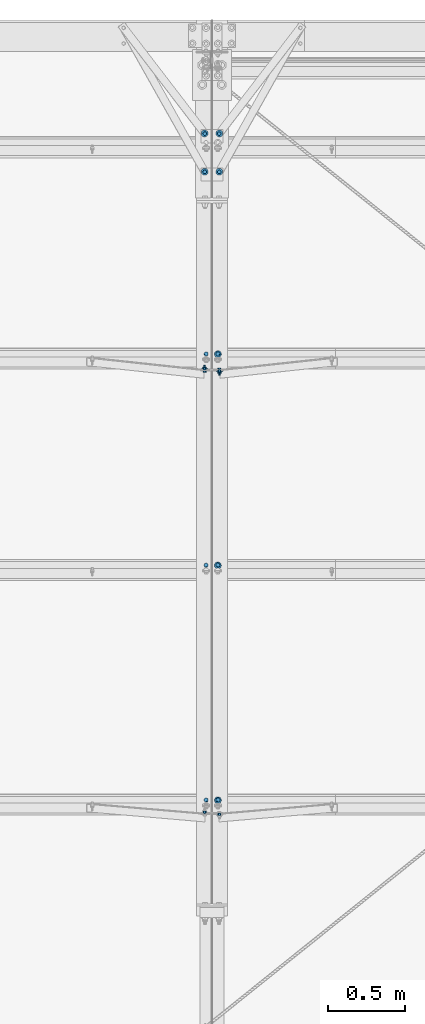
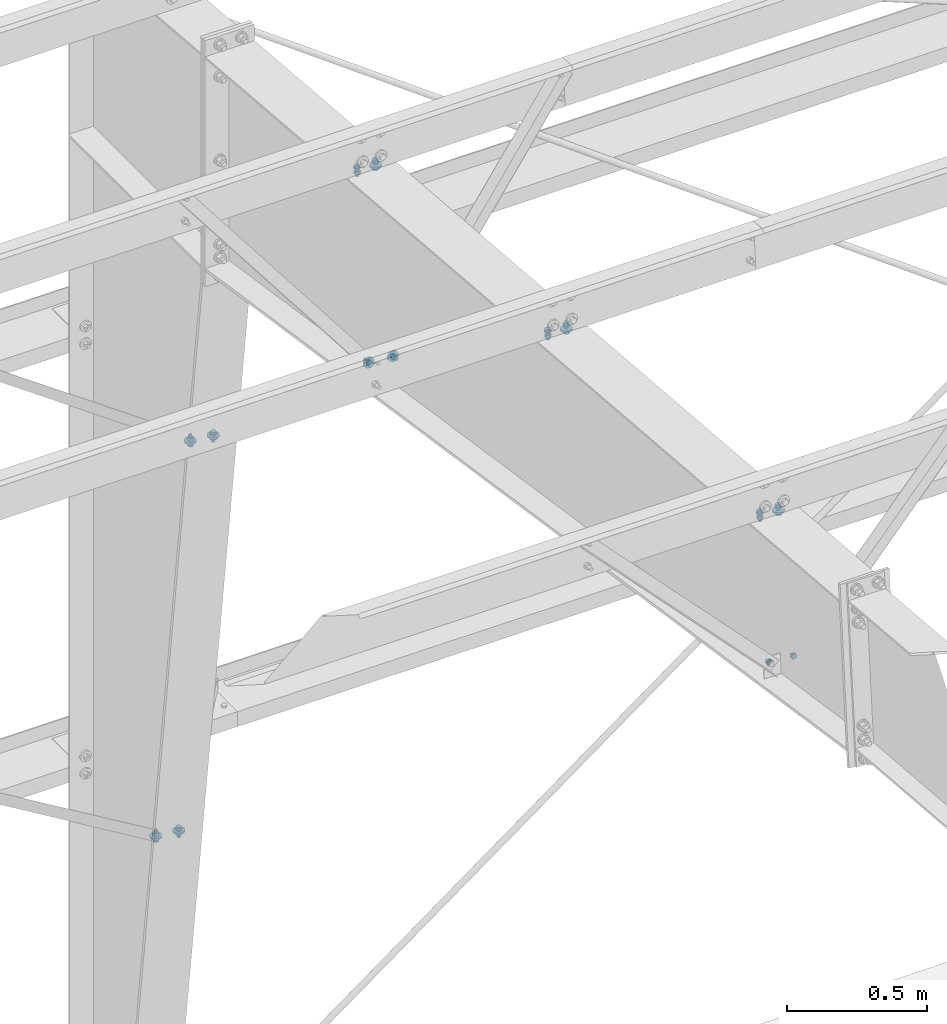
# One storey, part 163 of 185: 20 mechanical fasteners, 11 elements without a shape of their own.
"""IFC2X3 building model written with IfcOpenShell, lengths in millimetres."""

from ifc_helpers import new_model, si_unit, frame, origin_with_axes, origin_2d_with_axis, place, context, subcontext, project, spatial, polyline, circle, outline, extrude, source, transform, mapped, material, type_object, element, aggregate, save


model = new_model("IFC2X3")

# Units and contexts
model_context = context("Model", 3, precision=1e-05, world=origin_with_axes())
body_context = subcontext(model_context, "Body", "Model", "MODEL_VIEW")
ifc_project = project(units=[si_unit("LENGTHUNIT", "METRE", prefix="MILLI"), si_unit("AREAUNIT", "SQUARE_METRE"), si_unit("VOLUMEUNIT", "CUBIC_METRE"), si_unit("MASSUNIT", "GRAM", prefix="KILO"), si_unit("TIMEUNIT", "SECOND"), si_unit("PLANEANGLEUNIT", "RADIAN"), si_unit("SOLIDANGLEUNIT", "STERADIAN"), si_unit("THERMODYNAMICTEMPERATUREUNIT", "DEGREE_CELSIUS"), si_unit("LUMINOUSINTENSITYUNIT", "LUMEN")], contexts=[model_context])

# Site, building, storey
site_placement = place(None, origin_with_axes())
site = spatial("IfcSite", under=ifc_project, at=site_placement, Name="Undefined", CompositionType="ELEMENT")
building_placement = place(site_placement, origin_with_axes())
building = spatial("IfcBuilding", under=site, at=building_placement, Name="Undefined", CompositionType="ELEMENT")
storey_placement = place(building_placement, origin_with_axes())
storey = spatial("IfcBuildingStorey", under=building, at=storey_placement, Name="Undefined", CompositionType="ELEMENT", Elevation=0.0)

# Assembly, mechanical fastener
assembly_1_placement = place(storey_placement, origin_with_axes())
assembly_1 = element("IfcElementAssembly", 1, at=assembly_1_placement, inside=storey, Name="Steel Assembly", AssemblyPlace="NOTDEFINED", PredefinedType="RIGID_FRAME")
ifc_material_1 = material(Name="Undefined")
discrete_accessory_type = type_object("IfcDiscreteAccessoryType", Name="Bolt assembly")
shared_shape_1 = source(origin_with_axes(), body_context, "Body", "SweptSolid", [
    extrude(circle(Radius=7.14374971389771, at=origin_2d_with_axis()), frame((0.0, -1.59000001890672, 0.0), z_axis=(0.0, 1.0, 0.0), x_axis=(1.0, 0.0, 0.0)), (0.0, 0.0, 1.0), 1.7),
    extrude(outline(polyline([(10.9985221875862, 0.0), (5.4992610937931, 9.52499961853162), (-5.4992610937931, 9.52499961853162), (-10.9985221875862, 0.0), (-5.4992610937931, -9.52499961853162), (5.4992610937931, -9.52499961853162), (10.9985221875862, 0.0)])), frame((0.0, -15.0837496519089, 0.0), z_axis=(0.0, 1.0, 0.0), x_axis=(1.0, 0.0, 0.0)), (0.0, 0.0, 1.0), 9.5),
    extrude(circle(Radius=6.34999990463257, at=origin_2d_with_axis()), frame((0.0, -5.5587500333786, 0.0), z_axis=(0.0, 1.0, 0.0), x_axis=(1.0, 0.0, 0.0)), (0.0, 0.0, 1.0), 38.1),
    extrude(circle(Radius=13.4937496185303, at=origin_2d_with_axis()), frame((0.0, -5.5587500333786, 0.0), z_axis=(0.0, 1.0, 0.0), x_axis=(1.0, 0.0, 0.0)), (0.0, 0.0, 1.0), 4.0),
    extrude(circle(Radius=22.2250003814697, at=origin_2d_with_axis()), frame((0.0, 0.0, 0.0), z_axis=(0.0, 1.0, 0.0), x_axis=(1.0, 0.0, 0.0)), (0.0, 0.0, 1.0), 7.9),
    extrude(outline(polyline([(12.8316099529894, 0.0), (6.4158049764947, 11.1125001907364), (-6.4158049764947, 11.1125001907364), (-12.8316099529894, 0.0), (-6.4158049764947, -11.1125001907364), (6.4158049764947, -11.1125001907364), (12.8316099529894, 0.0)])), frame((0.0, 7.93750000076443, 0.0), z_axis=(0.0, 1.0, 0.0), x_axis=(1.0, 0.0, 0.0)), (0.0, 0.0, 1.0), 12.3),
])
mechanical_fastener_1_placement = place(assembly_1_placement, frame((30146.4399844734, 31270.1836420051, 2286.0), z_axis=(-0.793374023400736, 0.608734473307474, 0.0), x_axis=(0.608734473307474, 0.793374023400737, 0.0)))
mechanical_fastener_1 = element("IfcMechanicalFastener", 2, at=mechanical_fastener_1_placement, type_object=discrete_accessory_type, material=ifc_material_1, Name="Bolt assembly", NominalDiameter=12.6999998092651, NominalLength=38.0999984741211, context=body_context, shape_type="MappedRepresentation", body=[
    mapped(shared_shape_1, transform((0.0, 0.0, 0.0))),
])
aggregate(assembly_1, [mechanical_fastener_1])

assembly_2_placement = place(storey_placement, origin_with_axes())
assembly_2 = element("IfcElementAssembly", 3, at=assembly_2_placement, inside=storey, Name="Steel Assembly", AssemblyPlace="NOTDEFINED", PredefinedType="RIGID_FRAME")
mechanical_fastener_2_placement = place(assembly_2_placement, frame((30146.3218854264, 31022.2634783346, 4165.6), z_axis=(-0.871364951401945, 0.490635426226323, 0.0), x_axis=(0.490635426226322, 0.871364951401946, 0.0)))
mechanical_fastener_2 = element("IfcMechanicalFastener", 4, at=mechanical_fastener_2_placement, type_object=discrete_accessory_type, material=ifc_material_1, Name="Bolt assembly", NominalDiameter=12.6999998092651, NominalLength=38.0999984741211, context=body_context, shape_type="MappedRepresentation", body=[
    mapped(shared_shape_1, transform((0.0, 0.0, 0.0))),
])
aggregate(assembly_2, [mechanical_fastener_2])

assembly_3_placement = place(storey_placement, origin_with_axes())
assembly_3 = element("IfcElementAssembly", 5, at=assembly_3_placement, inside=storey, Name="Steel Assembly", AssemblyPlace="NOTDEFINED", PredefinedType="RIGID_FRAME")
mechanical_fastener_3_placement = place(assembly_3_placement, frame((30051.5578036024, 29740.0659329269, 5288.64606931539), z_axis=(-0.791478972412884, -0.0507570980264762, -0.609085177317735), x_axis=(-0.611196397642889, 0.065728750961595, 0.78874501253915)))
mechanical_fastener_3 = element("IfcMechanicalFastener", 6, at=mechanical_fastener_3_placement, type_object=discrete_accessory_type, material=ifc_material_1, Name="Bolt assembly", NominalDiameter=12.6999998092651, NominalLength=38.0999984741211, context=body_context, shape_type="MappedRepresentation", body=[
    mapped(shared_shape_1, transform((0.0, 0.0, 0.0))),
])
aggregate(assembly_3, [mechanical_fastener_3])

assembly_4_placement = place(storey_placement, origin_with_axes())
assembly_4 = element("IfcElementAssembly", 7, at=assembly_4_placement, inside=storey, Name="Steel Assembly", AssemblyPlace="NOTDEFINED", PredefinedType="RIGID_FRAME")
shared_shape_2 = source(origin_with_axes(), body_context, "Body", "SweptSolid", [
    extrude(circle(Radius=7.14374971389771, at=origin_2d_with_axis()), frame((0.0, 0.0, 0.0), z_axis=(0.0, 1.0, 0.0), x_axis=(1.0, 0.0, 0.0)), (0.0, 0.0, 1.0), 1.7),
    extrude(outline(polyline([(10.9985221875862, 0.0), (5.4992610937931, 9.52499961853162), (-5.4992610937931, 9.52499961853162), (-10.9985221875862, 0.0), (-5.4992610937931, -9.52499961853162), (5.4992610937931, -9.52499961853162), (10.9985221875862, 0.0)])), frame((0.0, -13.4937496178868, 0.0), z_axis=(0.0, 1.0, 0.0), x_axis=(1.0, 0.0, 0.0)), (0.0, 0.0, 1.0), 9.5),
    extrude(circle(Radius=6.34999990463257, at=origin_2d_with_axis()), frame((0.0, -3.96874999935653, 0.0), z_axis=(0.0, 1.0, 0.0), x_axis=(1.0, 0.0, 0.0)), (0.0, 0.0, 1.0), 38.1),
    extrude(circle(Radius=13.4937496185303, at=origin_2d_with_axis()), frame((0.0, -3.96874999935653, 0.0), z_axis=(0.0, 1.0, 0.0), x_axis=(1.0, 0.0, 0.0)), (0.0, 0.0, 1.0), 4.0),
    extrude(circle(Radius=22.2250003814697, at=origin_2d_with_axis()), frame((0.0, 1.5900000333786, 0.0), z_axis=(0.0, 1.0, 0.0), x_axis=(1.0, 0.0, 0.0)), (0.0, 0.0, 1.0), 7.9),
    extrude(outline(polyline([(12.8316099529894, 0.0), (6.4158049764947, 11.1125001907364), (-6.4158049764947, 11.1125001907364), (-12.8316099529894, 0.0), (-6.4158049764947, -11.1125001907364), (6.4158049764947, -11.1125001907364), (12.8316099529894, 0.0)])), frame((0.0, 9.5275000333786, 0.0), z_axis=(0.0, 1.0, 0.0), x_axis=(1.0, 0.0, 0.0)), (0.0, 0.0, 1.0), 12.3),
])
mechanical_fastener_4_placement = place(assembly_4_placement, frame((30051.5600155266, 31270.1836420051, 2286.0), z_axis=(0.793374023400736, 0.608734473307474, 0.0), x_axis=(-0.608734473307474, 0.793374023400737, 0.0)))
mechanical_fastener_4 = element("IfcMechanicalFastener", 8, at=mechanical_fastener_4_placement, type_object=discrete_accessory_type, material=ifc_material_1, Name="Bolt assembly", NominalDiameter=12.6999998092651, NominalLength=38.0999984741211, context=body_context, shape_type="MappedRepresentation", body=[
    mapped(shared_shape_2, transform((0.0, 0.0, 0.0))),
])
aggregate(assembly_4, [mechanical_fastener_4])

assembly_5_placement = place(storey_placement, origin_with_axes())
assembly_5 = element("IfcElementAssembly", 9, at=assembly_5_placement, inside=storey, Name="Steel Assembly", AssemblyPlace="NOTDEFINED", PredefinedType="RIGID_FRAME")
mechanical_fastener_5_placement = place(assembly_5_placement, frame((30051.6781145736, 31022.2634783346, 4165.6), z_axis=(0.871364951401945, 0.490635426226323, 0.0), x_axis=(-0.490635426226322, 0.871364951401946, 0.0)))
mechanical_fastener_5 = element("IfcMechanicalFastener", 10, at=mechanical_fastener_5_placement, type_object=discrete_accessory_type, material=ifc_material_1, Name="Bolt assembly", NominalDiameter=12.6999998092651, NominalLength=38.0999984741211, context=body_context, shape_type="MappedRepresentation", body=[
    mapped(shared_shape_2, transform((0.0, 0.0, 0.0))),
])
aggregate(assembly_5, [mechanical_fastener_5])

assembly_6_placement = place(storey_placement, origin_with_axes())
assembly_6 = element("IfcElementAssembly", 11, at=assembly_6_placement, inside=storey, Name="Steel Assembly", AssemblyPlace="NOTDEFINED", PredefinedType="RIGID_FRAME")
mechanical_fastener_6_placement = place(assembly_6_placement, frame((30146.4421963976, 29740.0659329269, 5288.64606931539), z_axis=(0.791478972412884, -0.0507570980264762, -0.609085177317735), x_axis=(0.611196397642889, 0.065728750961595, 0.78874501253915)))
mechanical_fastener_6 = element("IfcMechanicalFastener", 12, at=mechanical_fastener_6_placement, type_object=discrete_accessory_type, material=ifc_material_1, Name="Bolt assembly", NominalDiameter=12.6999998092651, NominalLength=38.0999984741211, context=body_context, shape_type="MappedRepresentation", body=[
    mapped(shared_shape_2, transform((0.0, 0.0, 0.0))),
])
aggregate(assembly_6, [mechanical_fastener_6])

# Assembly, mechanical fasteners
assembly_7_placement = place(storey_placement, origin_with_axes())
assembly_7 = element("IfcElementAssembly", 13, at=assembly_7_placement, inside=storey, Name="Steel Assembly", AssemblyPlace="NOTDEFINED", PredefinedType="RIGID_FRAME")
ifc_material_2 = material(Name="7990")
shared_shape_3 = source(origin_with_axes(), body_context, "Body", "SweptSolid", [
    extrude(circle(Radius=7.14374971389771, at=origin_2d_with_axis()), frame((0.0, -3.41600000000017, 0.0), z_axis=(0.0, 1.0, 0.0), x_axis=(1.0, 0.0, 0.0)), (0.0, 0.0, 1.0), 3.5),
    extrude(circle(Radius=11.4299998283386, at=origin_2d_with_axis()), frame((0.0, 0.0, 0.0), z_axis=(0.0, 1.0, 0.0), x_axis=(1.0, 0.0, 0.0)), (0.0, 0.0, 1.0), 4.2),
    extrude(outline(polyline([(12.171698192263, 0.0), (6.08584909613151, 10.5409998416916), (-6.08584909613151, 10.5409998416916), (-12.171698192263, 0.0), (-6.08584909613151, -10.5409998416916), (6.08584909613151, -10.5409998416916), (12.171698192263, 0.0)])), frame((0.0, 4.1909999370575, 0.0), z_axis=(0.0, 1.0, 0.0), x_axis=(1.0, 0.0, 0.0)), (0.0, 0.0, 1.0), 8.4),
])
mechanical_fastener_7_placement = place(assembly_7_placement, frame((30145.83125, 31269.3902679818, 2286.0), z_axis=(-0.921635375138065, -0.388057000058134, 0.0), x_axis=(0.388057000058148, -0.921635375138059, 0.0)))
mechanical_fastener_7 = element("IfcMechanicalFastener", 14, at=mechanical_fastener_7_placement, type_object=discrete_accessory_type, material=ifc_material_2, Name="Bolt assembly", NominalDiameter=12.6999998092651, NominalLength=38.0999984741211, context=body_context, shape_type="MappedRepresentation", body=[
    mapped(shared_shape_3, transform((0.0, 0.0, 0.0))),
])
mechanical_fastener_8_placement = place(assembly_7_placement, frame((30145.83125, 31021.3921133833, 4165.6), z_axis=(-0.921635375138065, -0.388057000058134, 0.0), x_axis=(0.388057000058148, -0.921635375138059, 0.0)))
mechanical_fastener_8 = element("IfcMechanicalFastener", 15, at=mechanical_fastener_8_placement, type_object=discrete_accessory_type, material=ifc_material_2, Name="Bolt assembly", NominalDiameter=12.6999998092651, NominalLength=38.0999984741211, context=body_context, shape_type="MappedRepresentation", body=[
    mapped(shared_shape_3, transform((0.0, 0.0, 0.0))),
])

assembly_8_placement = place(storey_placement, origin_with_axes())
assembly_8 = element("IfcElementAssembly", 16, at=assembly_8_placement, inside=storey, Name="Steel Assembly", AssemblyPlace="NOTDEFINED", PredefinedType="RIGID_FRAME")
mechanical_fastener_9_placement = place(assembly_8_placement, frame((30145.831, 26870.1706046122, 5717.54339178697), z_axis=(-0.921635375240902, -0.0322263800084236, -0.386716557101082), x_axis=(0.388056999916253, -0.0765376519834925, -0.918451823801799)))
mechanical_fastener_9 = element("IfcMechanicalFastener", 17, at=mechanical_fastener_9_placement, type_object=discrete_accessory_type, material=ifc_material_2, Name="Bolt assembly", NominalDiameter=12.6999998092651, NominalLength=38.0999984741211, context=body_context, shape_type="MappedRepresentation", body=[
    mapped(shared_shape_3, transform((0.0, 0.0, 0.0))),
])
mechanical_fastener_10_placement = place(assembly_8_placement, frame((30145.831, 29740.0002041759, 5287.85732430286), z_axis=(-0.921635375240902, -0.0322263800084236, -0.386716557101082), x_axis=(0.388056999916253, -0.0765376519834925, -0.918451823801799)))
mechanical_fastener_10 = element("IfcMechanicalFastener", 18, at=mechanical_fastener_10_placement, type_object=discrete_accessory_type, material=ifc_material_2, Name="Bolt assembly", NominalDiameter=12.6999998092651, NominalLength=38.0999984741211, context=body_context, shape_type="MappedRepresentation", body=[
    mapped(shared_shape_3, transform((0.0, 0.0, 0.0))),
])

# Mechanical fastener
shared_shape_4 = source(origin_with_axes(), body_context, "Body", "SweptSolid", [
    extrude(circle(Radius=7.14374971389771, at=origin_2d_with_axis()), frame((0.0, 0.0, 0.0), z_axis=(0.0, 1.0, 0.0), x_axis=(1.0, 0.0, 0.0)), (0.0, 0.0, 1.0), 3.5),
    extrude(circle(Radius=11.4299998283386, at=origin_2d_with_axis()), frame((0.0, 3.41600000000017, 0.0), z_axis=(0.0, 1.0, 0.0), x_axis=(1.0, 0.0, 0.0)), (0.0, 0.0, 1.0), 4.2),
    extrude(outline(polyline([(12.171698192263, 0.0), (6.08584909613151, 10.5409998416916), (-6.08584909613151, 10.5409998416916), (-12.171698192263, 0.0), (-6.08584909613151, -10.5409998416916), (6.08584909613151, -10.5409998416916), (12.171698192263, 0.0)])), frame((0.0, 7.60699993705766, 0.0), z_axis=(0.0, 1.0, 0.0), x_axis=(1.0, 0.0, 0.0)), (0.0, 0.0, 1.0), 8.4),
])
mechanical_fastener_11_placement = place(assembly_7_placement, frame((30052.16875, 31269.3902679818, 2286.0), z_axis=(0.921635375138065, -0.388057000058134, 0.0), x_axis=(-0.388057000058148, -0.921635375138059, 0.0)))
mechanical_fastener_11 = element("IfcMechanicalFastener", 19, at=mechanical_fastener_11_placement, type_object=discrete_accessory_type, material=ifc_material_2, Name="Bolt assembly", NominalDiameter=12.6999998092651, NominalLength=38.0999984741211, context=body_context, shape_type="MappedRepresentation", body=[
    mapped(shared_shape_4, transform((0.0, 0.0, 0.0))),
])

mechanical_fastener_12_placement = place(assembly_7_placement, frame((30052.16875, 31021.3921133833, 4165.6), z_axis=(0.921635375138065, -0.388057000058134, 0.0), x_axis=(-0.388057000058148, -0.921635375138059, 0.0)))
mechanical_fastener_12 = element("IfcMechanicalFastener", 20, at=mechanical_fastener_12_placement, type_object=discrete_accessory_type, material=ifc_material_2, Name="Bolt assembly", NominalDiameter=12.6999998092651, NominalLength=38.0999984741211, context=body_context, shape_type="MappedRepresentation", body=[
    mapped(shared_shape_4, transform((0.0, 0.0, 0.0))),
])

aggregate(assembly_7, [mechanical_fastener_7, mechanical_fastener_11, mechanical_fastener_8, mechanical_fastener_12])

mechanical_fastener_13_placement = place(assembly_8_placement, frame((30052.169, 26870.1706046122, 5717.54339178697), z_axis=(0.921635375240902, -0.0322263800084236, -0.386716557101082), x_axis=(-0.388056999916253, -0.0765376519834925, -0.918451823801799)))
mechanical_fastener_13 = element("IfcMechanicalFastener", 21, at=mechanical_fastener_13_placement, type_object=discrete_accessory_type, material=ifc_material_2, Name="Bolt assembly", NominalDiameter=12.6999998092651, NominalLength=38.0999984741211, context=body_context, shape_type="MappedRepresentation", body=[
    mapped(shared_shape_4, transform((0.0, 0.0, 0.0))),
])

mechanical_fastener_14_placement = place(assembly_8_placement, frame((30052.169, 29740.0002041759, 5287.85732430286), z_axis=(0.921635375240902, -0.0322263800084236, -0.386716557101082), x_axis=(-0.388056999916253, -0.0765376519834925, -0.918451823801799)))
mechanical_fastener_14 = element("IfcMechanicalFastener", 22, at=mechanical_fastener_14_placement, type_object=discrete_accessory_type, material=ifc_material_2, Name="Bolt assembly", NominalDiameter=12.6999998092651, NominalLength=38.0999984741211, context=body_context, shape_type="MappedRepresentation", body=[
    mapped(shared_shape_4, transform((0.0, 0.0, 0.0))),
])

aggregate(assembly_8, [mechanical_fastener_13, mechanical_fastener_9, mechanical_fastener_14, mechanical_fastener_10])

# Assembly, mechanical fastener
assembly_9_placement = place(storey_placement, origin_with_axes())
assembly_9 = element("IfcElementAssembly", 23, at=assembly_9_placement, inside=storey, Name="Steel Assembly", AssemblyPlace="NOTDEFINED", PredefinedType="RIGID_FRAME")
shared_shape_5 = source(origin_with_axes(), body_context, "Body", "SweptSolid", [
    extrude(circle(Radius=7.14374971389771, at=origin_2d_with_axis()), frame((0.0, -0.0238014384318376, 0.0), z_axis=(0.0, 1.0, 0.0), x_axis=(1.0, 0.0, 0.0)), (0.0, 0.0, 1.0), 8.0),
    extrude(circle(Radius=7.14374971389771, at=origin_2d_with_axis()), frame((0.0, -3.08000006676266, 0.0), z_axis=(0.0, 1.0, 0.0), x_axis=(1.0, 0.0, 0.0)), (0.0, 0.0, 1.0), 3.2),
    extrude(circle(Radius=7.14374971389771, at=origin_2d_with_axis()), frame((0.0, -3.08000006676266, 0.0), z_axis=(0.0, 1.0, 0.0), x_axis=(1.0, 0.0, 0.0)), (0.0, 0.0, 1.0), 3.2),
    extrude(outline(polyline([(10.9985221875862, 0.0), (5.4992610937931, 9.52499961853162), (-5.4992610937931, 9.52499961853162), (-10.9985221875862, 0.0), (-5.4992610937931, -9.52499961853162), (5.4992610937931, -9.52499961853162), (10.9985221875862, 0.0)])), frame((0.0, -16.6737496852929, 0.0), z_axis=(0.0, 1.0, 0.0), x_axis=(1.0, 0.0, 0.0)), (0.0, 0.0, 1.0), 9.5),
    extrude(circle(Radius=6.34999990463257, at=origin_2d_with_axis()), frame((0.0, -7.14875006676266, 0.0), z_axis=(0.0, 1.0, 0.0), x_axis=(1.0, 0.0, 0.0)), (0.0, 0.0, 1.0), 38.1),
    extrude(circle(Radius=13.4937496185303, at=origin_2d_with_axis()), frame((0.0, -7.14875006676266, 0.0), z_axis=(0.0, 1.0, 0.0), x_axis=(1.0, 0.0, 0.0)), (0.0, 0.0, 1.0), 4.0),
    extrude(circle(Radius=22.2250003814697, at=origin_2d_with_axis()), frame((0.0, 7.95019856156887, 0.0), z_axis=(0.0, 1.0, 0.0), x_axis=(1.0, 0.0, 0.0)), (0.0, 0.0, 1.0), 7.9),
    extrude(outline(polyline([(12.8316099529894, 0.0), (6.4158049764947, 11.1125001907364), (-6.4158049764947, 11.1125001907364), (-12.8316099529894, 0.0), (-6.4158049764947, -11.1125001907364), (6.4158049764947, -11.1125001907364), (12.8316099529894, 0.0)])), frame((0.0, 15.8876985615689, 0.0), z_axis=(0.0, 1.0, 0.0), x_axis=(1.0, 0.0, 0.0)), (0.0, 0.0, 1.0), 12.3),
])
mechanical_fastener_15_placement = place(assembly_9_placement, frame((30137.1, 29843.5883209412, 6072.12997209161), z_axis=(-1.0, 0.0, 0.0), x_axis=(0.0, 0.996545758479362, -0.0830454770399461)))
mechanical_fastener_15 = element("IfcMechanicalFastener", 24, at=mechanical_fastener_15_placement, type_object=discrete_accessory_type, material=ifc_material_1, Name="Bolt assembly", NominalDiameter=12.6999998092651, NominalLength=38.0999984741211, context=body_context, shape_type="MappedRepresentation", body=[
    mapped(shared_shape_5, transform((0.0, 0.0, 0.0))),
])

assembly_10_placement = place(storey_placement, origin_with_axes())
assembly_10 = element("IfcElementAssembly", 25, at=assembly_10_placement, inside=storey, Name="Steel Assembly", AssemblyPlace="NOTDEFINED", PredefinedType="RIGID_FRAME")
mechanical_fastener_16_placement = place(assembly_10_placement, frame((30137.1, 28476.7261589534, 6186.03515249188), z_axis=(-1.0, 0.0, 0.0), x_axis=(0.0, 0.996545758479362, -0.0830454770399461)))
mechanical_fastener_16 = element("IfcMechanicalFastener", 26, at=mechanical_fastener_16_placement, type_object=discrete_accessory_type, material=ifc_material_1, Name="Bolt assembly", NominalDiameter=12.6999998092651, NominalLength=38.0999984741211, context=body_context, shape_type="MappedRepresentation", body=[
    mapped(shared_shape_5, transform((0.0, 0.0, 0.0))),
])

assembly_11_placement = place(storey_placement, origin_with_axes())
assembly_11 = element("IfcElementAssembly", 27, at=assembly_11_placement, inside=storey, Name="Steel Assembly", AssemblyPlace="NOTDEFINED", PredefinedType="RIGID_FRAME")
mechanical_fastener_17_placement = place(assembly_11_placement, frame((30137.1, 26957.9904234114, 6312.59646404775), z_axis=(-1.0, 0.0, 0.0), x_axis=(0.0, 0.996545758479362, -0.0830454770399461)))
mechanical_fastener_17 = element("IfcMechanicalFastener", 28, at=mechanical_fastener_17_placement, type_object=discrete_accessory_type, material=ifc_material_1, Name="Bolt assembly", NominalDiameter=12.6999998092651, NominalLength=38.0999984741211, context=body_context, shape_type="MappedRepresentation", body=[
    mapped(shared_shape_5, transform((0.0, 0.0, 0.0))),
])

# Mechanical fastener
shared_shape_6 = source(origin_with_axes(), body_context, "Body", "SweptSolid", [
    extrude(circle(Radius=7.14374971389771, at=origin_2d_with_axis()), frame((0.0, -0.0238014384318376, 0.0), z_axis=(0.0, 1.0, 0.0), x_axis=(1.0, 0.0, 0.0)), (0.0, 0.0, 1.0), 8.0),
    extrude(circle(Radius=7.14374971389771, at=origin_2d_with_axis()), frame((0.0, -3.08000006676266, 0.0), z_axis=(0.0, 1.0, 0.0), x_axis=(1.0, 0.0, 0.0)), (0.0, 0.0, 1.0), 3.2),
    extrude(circle(Radius=7.14374971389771, at=origin_2d_with_axis()), frame((0.0, -3.08000006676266, 0.0), z_axis=(0.0, 1.0, 0.0), x_axis=(1.0, 0.0, 0.0)), (0.0, 0.0, 1.0), 3.2),
    extrude(outline(polyline([(10.9985221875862, 0.0), (5.4992610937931, 9.52499961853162), (-5.4992610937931, 9.52499961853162), (-10.9985221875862, 0.0), (-5.4992610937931, -9.52499961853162), (5.4992610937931, -9.52499961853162), (10.9985221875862, 0.0)])), frame((0.0, -16.6737496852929, 0.0), z_axis=(0.0, 1.0, 0.0), x_axis=(1.0, 0.0, 0.0)), (0.0, 0.0, 1.0), 9.5),
    extrude(circle(Radius=6.34999990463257, at=origin_2d_with_axis()), frame((0.0, -7.14875006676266, 0.0), z_axis=(0.0, 1.0, 0.0), x_axis=(1.0, 0.0, 0.0)), (0.0, 0.0, 1.0), 38.1),
    extrude(circle(Radius=13.4937496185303, at=origin_2d_with_axis()), frame((0.0, -7.14875006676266, 0.0), z_axis=(0.0, 1.0, 0.0), x_axis=(1.0, 0.0, 0.0)), (0.0, 0.0, 1.0), 4.0),
    extrude(outline(polyline([(12.8316099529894, 0.0), (6.4158049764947, 11.1125001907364), (-6.4158049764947, 11.1125001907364), (-12.8316099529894, 0.0), (-6.4158049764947, -11.1125001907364), (6.4158049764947, -11.1125001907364), (12.8316099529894, 0.0)])), frame((0.0, 7.95019856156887, 0.0), z_axis=(0.0, 1.0, 0.0), x_axis=(1.0, 0.0, 0.0)), (0.0, 0.0, 1.0), 12.3),
])
mechanical_fastener_18_placement = place(assembly_9_placement, frame((30060.9, 29843.5883209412, 6072.12997209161), z_axis=(-1.0, 0.0, 0.0), x_axis=(0.0, 0.996545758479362, -0.0830454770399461)))
mechanical_fastener_18 = element("IfcMechanicalFastener", 29, at=mechanical_fastener_18_placement, type_object=discrete_accessory_type, material=ifc_material_1, Name="Bolt assembly", NominalDiameter=12.6999998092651, NominalLength=38.0999984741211, context=body_context, shape_type="MappedRepresentation", body=[
    mapped(shared_shape_6, transform((0.0, 0.0, 0.0))),
])

aggregate(assembly_9, [mechanical_fastener_15, mechanical_fastener_18])

mechanical_fastener_19_placement = place(assembly_10_placement, frame((30060.9, 28476.7261589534, 6186.03515249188), z_axis=(-1.0, 0.0, 0.0), x_axis=(0.0, 0.996545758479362, -0.0830454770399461)))
mechanical_fastener_19 = element("IfcMechanicalFastener", 30, at=mechanical_fastener_19_placement, type_object=discrete_accessory_type, material=ifc_material_1, Name="Bolt assembly", NominalDiameter=12.6999998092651, NominalLength=38.0999984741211, context=body_context, shape_type="MappedRepresentation", body=[
    mapped(shared_shape_6, transform((0.0, 0.0, 0.0))),
])

aggregate(assembly_10, [mechanical_fastener_16, mechanical_fastener_19])

mechanical_fastener_20_placement = place(assembly_11_placement, frame((30060.9, 26957.9904234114, 6312.59646404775), z_axis=(-1.0, 0.0, 0.0), x_axis=(0.0, 0.996545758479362, -0.0830454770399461)))
mechanical_fastener_20 = element("IfcMechanicalFastener", 31, at=mechanical_fastener_20_placement, type_object=discrete_accessory_type, material=ifc_material_1, Name="Bolt assembly", NominalDiameter=12.6999998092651, NominalLength=38.0999984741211, context=body_context, shape_type="MappedRepresentation", body=[
    mapped(shared_shape_6, transform((0.0, 0.0, 0.0))),
])

aggregate(assembly_11, [mechanical_fastener_17, mechanical_fastener_20])

save(model, "model.ifc")
